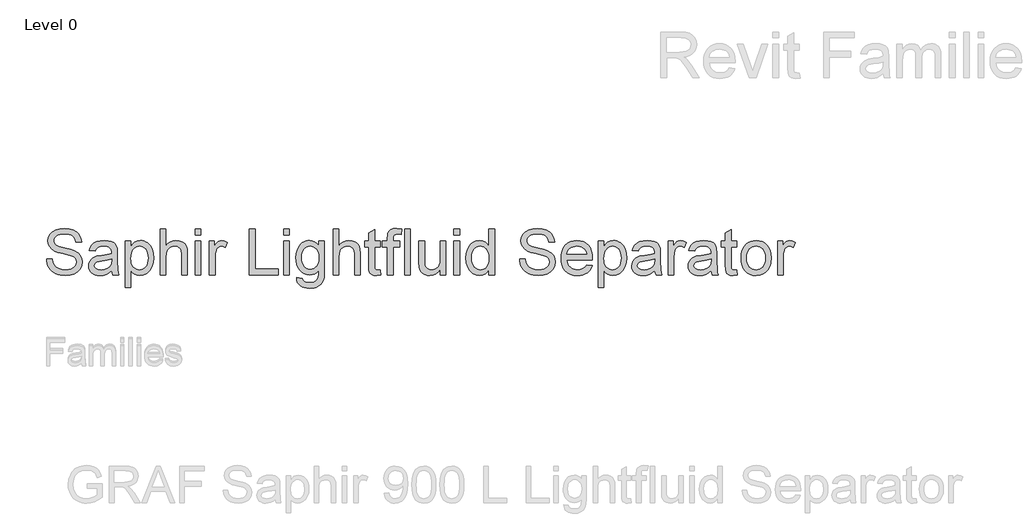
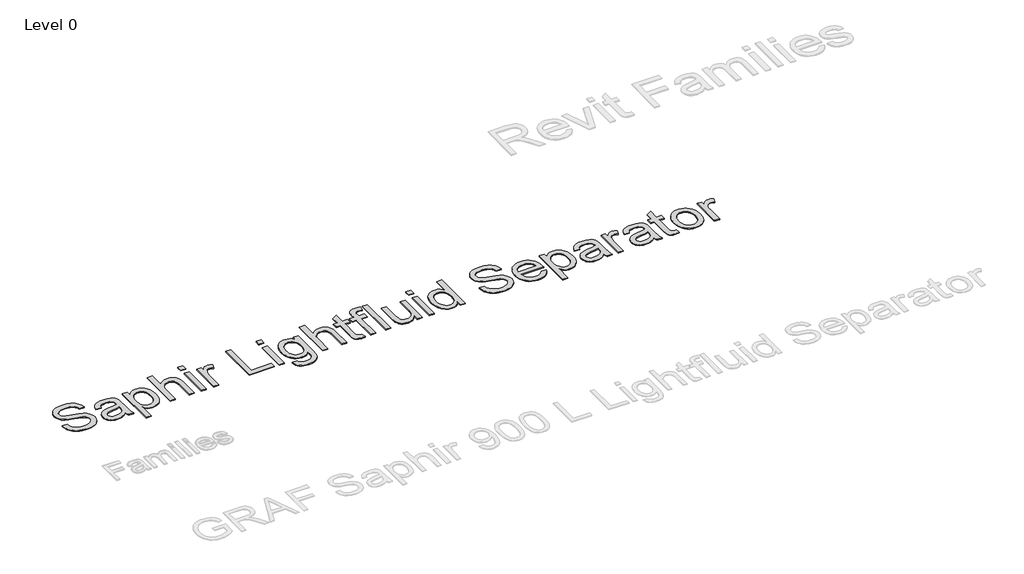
# One storey, part 7 of 9: 1 proxy.
"""IFC4 building model written with IfcOpenShell, lengths in millimetres."""

import ifcopenshell
import ifcopenshell.guid

model = None  # the IFC model being written
_history = None  # IfcOwnerHistory: only IFC2X3 demands one
_inside = {}  # id of a spatial element -> (the spatial element, [elements in it])
_under = {}  # id of a project, library or spatial element -> (it, [spatial elements below it])
_declared = {}  # id of a project -> (the project, [libraries it declares])
_typed = {}  # id of a type object -> (the type object, [elements of that type])
_made_of = {}  # id of a material, layer set ... -> (it, [elements and type objects made of it])


def new_model(schema):
    """Start an empty IFC model of exactly this schema.

    Asked for "IFC4X3", IfcOpenShell would pick the latest addendum, in which some entities
    have other attributes; the version numbers below select the first issue.
    IFC2X3 requires an IfcOwnerHistory on every rooted entity: one is made here for all.
    """
    global model, _history
    if schema == "IFC4X3":
        model = ifcopenshell.file(schema_version=(4, 3, 0, 0))
    else:
        model = ifcopenshell.file(schema=schema)
    _inside.clear()
    _under.clear()
    _declared.clear()
    _typed.clear()
    _made_of.clear()
    _history = None
    if model.schema == "IFC2X3":
        org = make("IfcOrganization", Name="unknown")
        user = make(
            "IfcPersonAndOrganization",
            ThePerson=make("IfcPerson", FamilyName="unknown"),
            TheOrganization=org,
        )
        app = make(
            "IfcApplication",
            ApplicationDeveloper=org,
            Version="unknown",
            ApplicationFullName="unknown",
            ApplicationIdentifier="unknown",
        )
        _history = make(
            "IfcOwnerHistory",
            OwningUser=user,
            OwningApplication=app,
            ChangeAction="ADDED",
            CreationDate=0,
        )
    return model


def make(cls, **values):
    """One entity of the class cls with the attributes given. An attribute that is None is left unset."""
    return model.create_entity(
        cls, **{name: value for name, value in values.items() if value is not None}
    )


def rooted(cls, **values):
    """An entity with a GlobalId (a new one), such as an element, a storey or a relation."""
    return make(cls, GlobalId=ifcopenshell.guid.new(), OwnerHistory=_history, **values)


def si_unit(unit_type, name, prefix=None):
    """IfcSIUnit, for example si_unit("LENGTHUNIT", "METRE", prefix="MILLI")."""
    return make("IfcSIUnit", UnitType=unit_type, Prefix=prefix, Name=name)


def assignment(units):
    """IfcUnitAssignment: the units of a project."""
    return None if units is None else make("IfcUnitAssignment", Units=units)


def point(xyz):
    """IfcCartesianPoint."""
    return None if xyz is None else make("IfcCartesianPoint", Coordinates=xyz)


def direction(xyz):
    """IfcDirection."""
    return None if xyz is None else make("IfcDirection", DirectionRatios=xyz)


def frame(location, z_axis=None, x_axis=None):
    """IfcAxis2Placement3D, a coordinate frame: its origin and axes. An axis left out is left unset."""
    return make(
        "IfcAxis2Placement3D",
        Location=point(location),
        Axis=direction(z_axis),
        RefDirection=direction(x_axis),
    )


def origin():
    """The frame at (0, 0, 0) with its axes left unset."""
    return frame((0.0, 0.0, 0.0))


def origin_with_axes():
    """The frame at (0, 0, 0) with the z axis (0, 0, 1) and the x axis (1, 0, 0) written out."""
    return frame((0.0, 0.0, 0.0), z_axis=(0.0, 0.0, 1.0), x_axis=(1.0, 0.0, 0.0))


def place(relative_to, where):
    """IfcLocalPlacement: puts the frame where relative to a parent placement (None: the world)."""
    return make(
        "IfcLocalPlacement", PlacementRelTo=relative_to, RelativePlacement=where
    )


def context(
    kind, dimensions, precision=None, world=None, true_north=None, identifier=None
):
    """IfcGeometricRepresentationContext, for example the 3D "Model" context."""
    return make(
        "IfcGeometricRepresentationContext",
        ContextIdentifier=identifier,
        ContextType=kind,
        CoordinateSpaceDimension=dimensions,
        Precision=precision,
        WorldCoordinateSystem=world,
        TrueNorth=true_north,
    )


def project(units=None, contexts=None):
    """IfcProject with its units and contexts."""
    return rooted(
        "IfcProject",
        Name="project",
        RepresentationContexts=contexts,
        UnitsInContext=assignment(units),
    )


def spatial(cls, under=None, at=None, **own):
    """A site, building, storey or space (cls), placed at a placement, below another one or the project."""
    s = rooted(cls, ObjectPlacement=at, **own)
    if under is not None:
        _under.setdefault(under.id(), (under, []))[1].append(s)
    return s


def polyline(points):
    """IfcPolyline through the points."""
    return make("IfcPolyline", Points=[point(p) for p in points])


def outline(outer, holes=None, kind="AREA"):
    """IfcArbitraryClosedProfileDef: a profile drawn as a closed curve; with holes, ...WithVoids."""
    if holes is None:
        return make("IfcArbitraryClosedProfileDef", ProfileType=kind, OuterCurve=outer)
    return make(
        "IfcArbitraryProfileDefWithVoids",
        ProfileType=kind,
        OuterCurve=outer,
        InnerCurves=holes,
    )


def extrude(swept, where, along, depth):
    """IfcExtrudedAreaSolid: the profile swept, set in the frame where, extruded along a direction by depth."""
    return make(
        "IfcExtrudedAreaSolid",
        SweptArea=swept,
        Position=where,
        ExtrudedDirection=direction(along),
        Depth=depth,
    )


def shape(context_of_items, identifier, shape_type, items):
    """IfcShapeRepresentation: the items that make up one representation, for example the "Body"."""
    return make(
        "IfcShapeRepresentation",
        ContextOfItems=context_of_items,
        RepresentationIdentifier=identifier,
        RepresentationType=shape_type,
        Items=items,
    )


def made_of(thing, what):
    """Note that an element or type object is made of a material, layer set ...; save() writes the relation."""
    if what is not None:
        _made_of.setdefault(what.id(), (what, []))[1].append(thing)
    return thing


def element(
    cls,
    number,
    at=None,
    inside=None,
    cuts=None,
    type_object=None,
    material=None,
    context=None,
    identifier="Body",
    shape_type=None,
    held_by="IfcProductDefinitionShape",
    body=None,
    shapes=None,
    **own,
):
    """One element of the class cls, such as IfcWall. Its Tag is "e" and its number.

    at: its placement. inside: the storey or other place that contains it. cuts: it is an
    opening in that element (IfcRelVoidsElement). A single representation is given by context,
    identifier, shape_type and body (its items); several are given by shapes. held_by: the class
    of the entity that holds the representations. save() writes the other relations.
    """
    e = rooted(cls, Tag="e%d" % number, ObjectPlacement=at, **own)
    if body is not None:
        shapes = [shape(context, identifier, shape_type, body)]
    if shapes is not None:
        e.Representation = make(held_by, Representations=shapes)
    if inside is not None:
        _inside.setdefault(inside.id(), (inside, []))[1].append(e)
    if cuts is not None:
        rooted(
            "IfcRelVoidsElement", RelatingBuildingElement=cuts, RelatedOpeningElement=e
        )
    if type_object is not None:
        _typed.setdefault(type_object.id(), (type_object, []))[1].append(e)
    return made_of(e, material)


def aggregate(whole, parts):
    """IfcRelAggregates: a whole, such as a stair, and the parts it consists of."""
    return rooted("IfcRelAggregates", RelatingObject=whole, RelatedObjects=parts)


def save(model, path):
    """Write the relations noted so far, then the file.

    IfcRelAggregates (storeys below a building ...), IfcRelContainedInSpatialStructure (elements
    in a storey), IfcRelDefinesByType, IfcRelAssociatesMaterial and IfcRelDeclares: one each for
    every whole, place, type object, material and project.
    """
    for whole, parts in _under.values():
        aggregate(whole, parts)
    for where, things in _inside.values():
        rooted(
            "IfcRelContainedInSpatialStructure",
            RelatedElements=things,
            RelatingStructure=where,
        )
    for kind, things in _typed.values():
        rooted("IfcRelDefinesByType", RelatedObjects=things, RelatingType=kind)
    for what, things in _made_of.values():
        rooted("IfcRelAssociatesMaterial", RelatedObjects=things, RelatingMaterial=what)
    for by, libraries in _declared.values():
        rooted("IfcRelDeclares", RelatingContext=by, RelatedDefinitions=libraries)
    model.write(path)


model = new_model("IFC4")

# Units and contexts
model_context = context("Model", 3, world=origin())
ifc_project = project(units=[si_unit("LENGTHUNIT", "METRE", prefix="MILLI")], contexts=[model_context])

# Site, building, storey
site = spatial("IfcSite", under=ifc_project)
building = spatial("IfcBuilding", under=site)
storey = spatial("IfcBuildingStorey", under=building, Name="Level 0", Elevation=0.0)

# Proxy
placement = place(None, origin())
element("IfcBuildingElementProxy", 1, Name="600mm Arial", ObjectType="600mm Arial", at=placement, inside=storey, context=model_context, shape_type="SweptSolid", body=[
    extrude(outline(polyline([(-15383.8303547, 12826.4867384), (-15321.0451609, 12826.4867384), (-15313.8408051, 12791.6452478), (-15300.8116512, 12763.6402309), (-15280.4861709, 12741.414027), (-15251.3928365, 12723.9089754), (-15215.8309103, 12712.5506188), (-15176.0996548, 12708.7644999), (-15141.1202084, 12711.6309138), (-15110.4940323, 12720.2301555), (-15085.6773261, 12733.8417893), (-15068.1262892, 12751.7453797), (-15057.6876376, 12772.3007862), (-15054.2080871, 12793.8678682), (-15056.8139179, 12814.8831271), (-15064.6314102, 12833.0473007), (-15080.5116497, 12848.5443297), (-15107.3057217, 12861.5581553), (-15198.7243975, 12885.5317986), (-15258.735148, 12901.3967097), (-15297.1328312, 12916.4951999), (-15328.3874724, 12937.6177578), (-15350.5370342, 12963.2162133), (-15363.7348007, 12992.7387434), (-15368.1340563, 13025.6335251), (-15362.6924684, 13062.4063962), (-15346.3677049, 13096.6960639), (-15334.2314312, 13112.2237497), (-15319.5889613, 13125.7587415), (-15282.7854334, 13146.8506425), (-15238.6089371, 13159.6805271), (-15189.7112886, 13163.9571553), (-15136.7362813, 13159.4812577), (-15090.3831499, 13146.0535649), (-15052.3073634, 13123.9499883), (-15036.9942754, 13109.7482105), (-15024.1643908, 13093.4464396), (-15006.3527708, 13056.4436422), (-14999.2710424, 13014.8423199), (-15062.0562363, 13014.8423199), (-15066.2562224, 13034.8765603), (-15073.5832055, 13052.3049698), (-15084.0371855, 13067.1275485), (-15097.6181625, 13079.3442964), (-15114.5790553, 13088.8938999), (-15135.1727828, 13095.7150452), (-15187.258742, 13101.1719615), (-15240.5709744, 13095.7763589), (-15260.9501041, 13089.0318556), (-15277.1445761, 13079.5895511), (-15289.4839514, 13068.2388587), (-15298.2977909, 13055.7691919), (-15303.5860945, 13042.1805507), (-15305.3488624, 13027.4729351), (-15300.3517987, 13003.3460076), (-15285.3606074, 12983.9402323), (-15271.5956894, 12975.3103339), (-15249.9213085, 12966.5884649), (-15182.844158, 12948.8688155), (-15113.6210293, 12932.0382142), (-15071.7437955, 12917.3535912), (-15035.951943, 12894.5755643), (-15010.9819526, 12866.4632485), (-14996.3126581, 12833.3232121), (-14991.4228932, 12795.4620235), (-14997.0484221, 12756.7577719), (-15013.9250086, 12720.3527828), (-15041.3628741, 12689.0214995), (-15078.6722397, 12665.5383655), (-15123.5385147, 12650.869071), (-15173.6471082, 12645.9793061), (-15235.1600434, 12651.2522814), (-15261.8353202, 12657.8435004), (-15285.789803, 12667.0712072), (-15307.1691119, 12678.9507299), (-15326.1188667, 12693.4973971), (-15342.6390676, 12710.7112088), (-15356.7297144, 12730.592165), (-15368.0804068, 12752.4964721), (-15376.3807443, 12775.7803367), (-15381.630727, 12800.4437588), (-15383.8303547, 12826.4867384)])), origin_with_axes(), (0.0, 0.0, 1.0), 10.0),
    extrude(outline(polyline([(-14669.6487748, 12700.9163507), (-14699.6464858, 12675.1952679), (-14730.533245, 12658.3646666), (-14763.0141595, 12649.0756462), (-14797.7943364, 12645.9793061), (-14825.7495359, 12647.8417087), (-14850.263506, 12653.4289165), (-14871.3362465, 12662.7409295), (-14888.9677576, 12675.7777477), (-14902.8897918, 12691.7116366), (-14912.834102, 12709.7148618), (-14918.8006881, 12729.7874231), (-14920.7895501, 12751.9293207), (-14917.7851805, 12777.9569719), (-14908.7720716, 12801.5933901), (-14894.8691979, 12821.8268998), (-14877.1955337, 12837.6458256), (-14856.4255294, 12849.6019904), (-14833.2336353, 12858.2472173), (-14778.9097273, 12867.6895219), (-14714.7143192, 12877.6223357), (-14670.0166568, 12889.2719322), (-14669.6487748, 12903.2514481), (-14673.9713882, 12931.2717934), (-14686.9392285, 12949.6045795), (-14700.0143678, 12957.5446992), (-14715.9405925, 12963.2162133), (-14756.3462983, 12967.7534246), (-14793.7476345, 12964.7337265), (-14819.8672561, 12955.6746324), (-14837.6788761, 12938.9206732), (-14850.1562071, 12912.8163799), (-14912.9414009, 12920.6645292), (-14902.0428968, 12955.0001821), (-14885.7794469, 12981.978195), (-14862.6335381, 13002.6102436), (-14831.087657, 13017.9080032), (-14792.5060327, 13027.3809646), (-14748.2528944, 13030.5386184), (-14705.8085092, 13027.7488466), (-14672.1626351, 13019.3795312), (-14646.7941058, 13006.7949013), (-14629.1817553, 12991.3591859), (-14617.5015019, 12972.2753074), (-14609.9292642, 12948.7461881), (-14606.8635809, 12893.8091435), (-14606.8635809, 12815.6955332), (-14603.6752703, 12706.6185216), (-14598.954118, 12679.6558371), (-14591.1672825, 12653.8274553), (-14653.9524763, 12653.8274553), (-14664.0079175, 12675.6551204), (-14669.6487748, 12700.9163507)]), holes=[polyline([(-14669.6487748, 12826.4867384), (-14711.8325769, 12816.0327584), (-14770.9389508, 12807.2342473), (-14824.9562904, 12797.0561788), (-14839.0124483, 12790.0970777), (-14849.4204431, 12780.501489), (-14855.858378, 12769.0051767), (-14858.0043563, 12756.3439047), (-14853.3291893, 12737.6738934), (-14839.3036882, 12722.3761338), (-14816.2344214, 12712.1674084), (-14784.4279573, 12708.7644999), (-14750.705441, 12712.519962), (-14720.9069994, 12723.7863481), (-14696.7494151, 12740.3870231), (-14679.9494706, 12760.1453519), (-14672.4998602, 12780.501489), (-14670.0166568, 12808.7057753), (-14669.6487748, 12826.4867384)])]), origin_with_axes(), (0.0, 0.0, 1.0), 10.0),
    extrude(outline(polyline([(-14520.5339394, 12512.5607692), (-14520.5339394, 13022.6904692), (-14457.7487455, 13022.6904692), (-14457.7487455, 12961.1315486), (-14437.2699811, 12991.4971417), (-14414.3386701, 13013.186851), (-14387.6059118, 13026.2006765), (-14355.7228055, 13030.5386184), (-14333.8261626, 13029.0211052), (-14313.2630919, 13024.4685655), (-14294.0335935, 13016.8809993), (-14276.1376673, 13006.2584067), (-14259.9661879, 12992.8766991), (-14245.91003, 12977.0117881), (-14224.1436786, 12937.8323556), (-14210.9918973, 12891.5711947), (-14206.6079702, 12841.0793909), (-14211.5590487, 12787.383948), (-14226.4122842, 12739.3600192), (-14237.4334157, 12718.0841772), (-14250.6924959, 12699.4448227), (-14266.189525, 12683.4419559), (-14283.9245028, 12670.0755768), (-14322.6287544, 12652.0033738), (-14363.3257001, 12645.9793061), (-14392.1891083, 12650.0106796), (-14417.9561764, 12662.1048002), (-14440.0137677, 12680.3609442), (-14457.7487455, 12702.878388), (-14457.7487455, 12512.5607692), (-14520.5339394, 12512.5607692)]), holes=[polyline([(-14457.7487455, 12835.3159063), (-14456.0511234, 12805.0576122), (-14450.958257, 12779.029961), (-14442.4701464, 12757.2329528), (-14430.5867916, 12739.6665875), (-14416.2815469, 12726.1469242), (-14400.5277669, 12716.4900218), (-14383.3254515, 12710.6958804), (-14364.6746008, 12708.7644999), (-14345.7555027, 12710.7648583), (-14328.2389548, 12716.7659333), (-14312.124957, 12726.7677251), (-14297.4135093, 12740.7702335), (-14285.1546082, 12758.9727281), (-14276.3982503, 12781.5744782), (-14271.1444356, 12808.5754838), (-14269.393164, 12839.9757449), (-14271.1022824, 12869.9734559), (-14276.2296378, 12895.9551218), (-14284.7752299, 12917.9207426), (-14296.739059, 12935.8703183), (-14311.0787926, 12949.8191773), (-14326.7520984, 12959.782648), (-14343.7589765, 12965.7607304), (-14362.0994268, 12967.7534246), (-14380.3823955, 12965.634271), (-14397.5847109, 12959.2768102), (-14413.7063729, 12948.6810424), (-14428.7473816, 12933.8469673), (-14441.4354783, 12914.9738546), (-14450.4984045, 12892.2609735), (-14455.9361603, 12865.708324), (-14457.7487455, 12835.3159063)])]), origin_with_axes(), (0.0, 0.0, 1.0), 10.0),
    extrude(outline(polyline([(-14135.9746271, 12653.8274553), (-14135.9746271, 13156.1090061), (-14073.1894332, 13156.1090061), (-14073.1894332, 12971.4322445), (-14050.1278307, 12997.2912831), (-14024.2304711, 13015.7620249), (-13995.4973544, 13026.84447), (-13963.9284807, 13030.5386184), (-13926.0059783, 13026.5072449), (-13893.4177649, 13014.4131243), (-13867.7579958, 12995.2066184), (-13850.6208262, 12969.8380892), (-13840.9639238, 12934.9812701), (-13837.7449563, 12887.3098949), (-13837.7449563, 12653.8274553), (-13900.5301502, 12653.8274553), (-13900.5301502, 12880.8106464), (-13905.5272139, 12920.1127062), (-13911.7735437, 12935.1192259), (-13920.5184052, 12947.0294055), (-13931.5548651, 12956.0961638), (-13944.6759896, 12962.5724198), (-13977.1722325, 12967.7534246), (-14003.7057214, 12964.2585456), (-14028.6143982, 12953.7739087), (-14049.2464467, 12937.3111895), (-14062.950051, 12915.8820632), (-14070.6295877, 12887.4018654), (-14073.1894332, 12849.7859314), (-14073.1894332, 12653.8274553), (-14135.9746271, 12653.8274553)])), origin_with_axes(), (0.0, 0.0, 1.0), 10.0),
    extrude(outline(polyline([(-13751.4153148, 12653.8274553), (-13751.4153148, 13022.6904692), (-13688.630121, 13022.6904692), (-13688.630121, 12653.8274553), (-13751.4153148, 12653.8274553)])), origin_with_axes(), (0.0, 0.0, 1.0), 10.0),
    extrude(outline(polyline([(-13751.4153148, 13093.3238122), (-13751.4153148, 13156.1090061), (-13688.630121, 13156.1090061), (-13688.630121, 13093.3238122), (-13751.4153148, 13093.3238122)])), origin_with_axes(), (0.0, 0.0, 1.0), 10.0),
    extrude(outline(polyline([(-13594.4523302, 12653.8274553), (-13594.4523302, 13022.6904692), (-13539.5152856, 13022.6904692), (-13539.5152856, 12968.1213065), (-13519.2204622, 12999.7591581), (-13500.5197941, 13018.3985126), (-13481.7578123, 13027.5035919), (-13461.2790479, 13030.5386184), (-13430.0090783, 13025.6948388), (-13398.2485994, 13011.1635), (-13419.2178732, 12954.8775547), (-13441.2907929, 12964.5344571), (-13463.3637126, 12967.7534246), (-13482.1103659, 12964.6570844), (-13498.8643251, 12955.368064), (-13512.3993168, 12940.5914706), (-13521.4890678, 12921.0324112), (-13529.1226192, 12885.9609943), (-13531.6671363, 12847.7012668), (-13531.6671363, 12653.8274553), (-13594.4523302, 12653.8274553)])), origin_with_axes(), (0.0, 0.0, 1.0), 10.0),
    extrude(outline(polyline([(-13154.9559733, 12653.8274553), (-13154.9559733, 13156.1090061), (-13092.1707794, 13156.1090061), (-13092.1707794, 12716.6126492), (-12841.0300041, 12716.6126492), (-12841.0300041, 12653.8274553), (-13154.9559733, 12653.8274553)])), origin_with_axes(), (0.0, 0.0, 1.0), 10.0),
    extrude(outline(polyline([(-12778.2448102, 12653.8274553), (-12778.2448102, 13022.6904692), (-12715.4596164, 13022.6904692), (-12715.4596164, 12653.8274553), (-12778.2448102, 12653.8274553)])), origin_with_axes(), (0.0, 0.0, 1.0), 10.0),
    extrude(outline(polyline([(-12778.2448102, 13093.3238122), (-12778.2448102, 13156.1090061), (-12715.4596164, 13156.1090061), (-12715.4596164, 13093.3238122), (-12778.2448102, 13093.3238122)])), origin_with_axes(), (0.0, 0.0, 1.0), 10.0),
    extrude(outline(polyline([(-12636.9781241, 12622.4348584), (-12574.1929302, 12614.5867092), (-12567.264486, 12594.9663361), (-12553.8367932, 12581.4773296), (-12527.44126, 12570.9926928), (-12492.8910093, 12567.4978138), (-12456.0414961, 12571.4525452), (-12428.6342875, 12583.3167396), (-12409.6270511, 12602.323976), (-12397.9774545, 12627.7078337), (-12394.5745461, 12654.7165035), (-12393.6854979, 12700.9163507), (-12414.5781296, 12680.314959), (-12437.892651, 12665.5996792), (-12463.6290623, 12656.7705113), (-12491.7873633, 12653.8274553), (-12526.2111546, 12657.2533564), (-12556.519266, 12667.5310597), (-12582.7116977, 12684.6605651), (-12604.7884495, 12708.6418726), (-12622.3049974, 12737.4133103), (-12634.8168174, 12768.9132062), (-12642.3239093, 12803.1415601), (-12644.8262733, 12840.0983722), (-12640.3350473, 12890.7894455), (-12626.8613692, 12937.40316), (-12604.88042, 12976.9044892), (-12590.8779116, 12992.8498744), (-12574.8673806, 13006.2584067), (-12557.105578, 13016.8809993), (-12537.8492548, 13024.4685655), (-12517.098411, 13029.0211052), (-12494.8530466, 13030.5386184), (-12465.4914649, 13027.1050531), (-12438.8430128, 13016.8043572), (-12414.9076905, 12999.6365308), (-12393.6854979, 12975.6015738), (-12393.6854979, 13022.6904692), (-12330.9003041, 13022.6904692), (-12330.9003041, 12704.2272887), (-12335.1922607, 12630.6968749), (-12340.5572065, 12603.3471478), (-12348.0681305, 12582.2744073), (-12370.2483492, 12550.1613748), (-12402.4533522, 12525.5592663), (-12422.138871, 12516.4388586), (-12443.9780324, 12509.9242816), (-12494.1172826, 12504.71262), (-12524.8775824, 12506.5481978), (-12552.5338778, 12512.0549314), (-12577.0861688, 12521.2328208), (-12598.5344556, 12534.0818659), (-12615.8593983, 12550.6173952), (-12628.0416573, 12570.854737), (-12635.0812325, 12594.7938914), (-12636.9781241, 12622.4348584)]), holes=[polyline([(-12582.0410795, 12844.3903288), (-12580.36645, 12813.3464534), (-12575.3425615, 12786.8014682), (-12566.969414, 12764.7553732), (-12555.2470075, 12747.2081684), (-12540.9954123, 12733.8226288), (-12525.0346986, 12724.261529), (-12507.3648665, 12718.5248691), (-12487.985916, 12716.6126492), (-12468.7985707, 12718.5133728), (-12451.2130449, 12724.2155437), (-12435.2293387, 12733.719162), (-12420.8474519, 12747.0242274), (-12408.964097, 12764.3989875), (-12400.4759864, 12786.1116894), (-12395.3831201, 12812.1623332), (-12393.6854979, 12842.5509189), (-12395.4329374, 12871.671078), (-12400.6752558, 12896.9821257), (-12409.4124532, 12918.4840619), (-12421.6445296, 12936.1768866), (-12436.3368167, 12949.991622), (-12452.4546467, 12959.8592901), (-12469.9980193, 12965.7798909), (-12488.9669347, 12967.7534246), (-12507.6177854, 12965.8105478), (-12524.8201008, 12959.9819174), (-12540.5738808, 12950.2675335), (-12554.8791255, 12936.667396), (-12566.7624804, 12919.2428185), (-12575.250591, 12898.0551149), (-12580.3434573, 12873.104285), (-12582.0410795, 12844.3903288)])]), origin_with_axes(), (0.0, 0.0, 1.0), 10.0),
    extrude(outline(polyline([(-12236.7225133, 12653.8274553), (-12236.7225133, 13156.1090061), (-12173.9373195, 13156.1090061), (-12173.9373195, 12971.4322445), (-12150.8757169, 12997.2912831), (-12124.9783573, 13015.7620249), (-12096.2452406, 13026.84447), (-12064.6763669, 13030.5386184), (-12026.7538646, 13026.5072449), (-11994.1656512, 13014.4131243), (-11968.505882, 12995.2066184), (-11951.3687124, 12969.8380892), (-11941.71181, 12934.9812701), (-11938.4928426, 12887.3098949), (-11938.4928426, 12653.8274553), (-12001.2780364, 12653.8274553), (-12001.2780364, 12880.8106464), (-12006.2751002, 12920.1127062), (-12012.5214299, 12935.1192259), (-12021.2662915, 12947.0294055), (-12032.3027513, 12956.0961638), (-12045.4238758, 12962.5724198), (-12077.9201187, 12967.7534246), (-12104.4536076, 12964.2585456), (-12129.3622844, 12953.7739087), (-12149.994333, 12937.3111895), (-12163.6979373, 12915.8820632), (-12171.3774739, 12887.4018654), (-12173.9373195, 12849.7859314), (-12173.9373195, 12653.8274553), (-12236.7225133, 12653.8274553)])), origin_with_axes(), (0.0, 0.0, 1.0), 10.0),
    extrude(outline(polyline([(-11718.7446641, 12706.189326), (-11710.8965149, 12651.9880454), (-11757.8627829, 12645.9793061), (-11787.9984497, 12648.5851369), (-11810.4699082, 12656.4026293), (-11826.3501477, 12668.4507646), (-11836.7121572, 12683.7485243), (-11842.4143282, 12710.0214301), (-11844.3150518, 12754.995004), (-11844.3150518, 12959.9052753), (-11891.4039472, 12959.9052753), (-11891.4039472, 13022.6904692), (-11844.3150518, 13022.6904692), (-11844.3150518, 13112.3310487), (-11781.529858, 13149.2418755), (-11781.529858, 13022.6904692), (-11718.7446641, 13022.6904692), (-11718.7446641, 12959.9052753), (-11781.529858, 12959.9052753), (-11781.529858, 12756.834414), (-11778.21892, 12724.4607984), (-11767.4890285, 12712.9951429), (-11746.0905591, 12708.7644999), (-11718.7446641, 12706.189326)])), origin_with_axes(), (0.0, 0.0, 1.0), 10.0),
    extrude(outline(polyline([(-11640.2631718, 12653.8274553), (-11640.2631718, 12959.9052753), (-11695.2002164, 12959.9052753), (-11695.2002164, 13022.6904692), (-11640.2631718, 13022.6904692), (-11640.2631718, 13059.8465507), (-11638.6077028, 13090.5953541), (-11633.6412959, 13112.2084213), (-11621.0106807, 13133.0857246), (-11601.512935, 13149.6097575), (-11574.2283537, 13160.3703059), (-11538.2372318, 13163.9571553), (-11480.9702679, 13157.0900247), (-11490.1673178, 13098.2289055), (-11526.3423806, 13101.1719615), (-11550.2087251, 13098.5661307), (-11565.8896951, 13090.7486383), (-11574.5809073, 13075.8187606), (-11577.477978, 13051.8757741), (-11577.477978, 13022.6904692), (-11506.8446349, 13022.6904692), (-11506.8446349, 12959.9052753), (-11577.477978, 12959.9052753), (-11577.477978, 12653.8274553), (-11640.2631718, 12653.8274553)])), origin_with_axes(), (0.0, 0.0, 1.0), 10.0),
    extrude(outline(polyline([(-11451.9075903, 12653.8274553), (-11451.9075903, 13156.1090061), (-11389.1223964, 13156.1090061), (-11389.1223964, 12653.8274553), (-11451.9075903, 12653.8274553)])), origin_with_axes(), (0.0, 0.0, 1.0), 10.0),
    extrude(outline(polyline([(-11059.5001288, 12653.8274553), (-11059.5001288, 12717.2257858), (-11082.216842, 12686.055451), (-11108.6736888, 12663.790926), (-11138.8706692, 12650.4322111), (-11172.8077833, 12645.9793061), (-11203.3879741, 12649.1063031), (-11231.8528435, 12658.4872939), (-11255.7345164, 12672.5894371), (-11272.5651176, 12689.8798909), (-11283.8928174, 12710.8798214), (-11291.2657857, 12736.1103949), (-11294.9446057, 12794.4810048), (-11294.9446057, 13022.6904692), (-11232.1594118, 13022.6904692), (-11232.1594118, 12824.0341918), (-11228.3579645, 12760.0227246), (-11219.2068999, 12738.6702405), (-11203.5259299, 12722.4374474), (-11182.3573867, 12712.1827368), (-11156.7436028, 12708.7644999), (-11129.6582909, 12712.2593789), (-11104.3204185, 12722.7440158), (-11083.4277869, 12739.2527203), (-11069.6781973, 12760.8198023), (-11062.0446459, 12790.3576608), (-11059.5001288, 12830.778695), (-11059.5001288, 13022.6904692), (-10996.7149349, 13022.6904692), (-10996.7149349, 12653.8274553), (-11059.5001288, 12653.8274553)])), origin_with_axes(), (0.0, 0.0, 1.0), 10.0),
    extrude(outline(polyline([(-10910.3852934, 12653.8274553), (-10910.3852934, 13022.6904692), (-10847.6000995, 13022.6904692), (-10847.6000995, 12653.8274553), (-10910.3852934, 12653.8274553)])), origin_with_axes(), (0.0, 0.0, 1.0), 10.0),
    extrude(outline(polyline([(-10910.3852934, 13093.3238122), (-10910.3852934, 13156.1090061), (-10847.6000995, 13156.1090061), (-10847.6000995, 13093.3238122), (-10910.3852934, 13093.3238122)])), origin_with_axes(), (0.0, 0.0, 1.0), 10.0),
    extrude(outline(polyline([(-10525.8259811, 12653.8274553), (-10525.8259811, 12713.0564566), (-10544.6109555, 12683.7102032), (-10567.3659897, 12662.7485937), (-10594.0910838, 12650.171628), (-10624.7862378, 12645.9793061), (-10665.3758846, 12652.049359), (-10702.5319661, 12670.2595178), (-10733.9858767, 12699.3375238), (-10757.4690107, 12738.0111186), (-10772.09232, 12784.7168035), (-10776.9667565, 12837.8910803), (-10772.4755304, 12890.4062351), (-10759.0018524, 12937.8323556), (-10748.9004259, 12958.9625777), (-10736.5610507, 12977.4716406), (-10721.9837266, 12993.3595443), (-10705.1684537, 13006.6262887), (-10667.1999662, 13024.560536), (-10625.0314925, 13030.5386184), (-10594.3133459, 13026.2619902), (-10567.1513919, 13013.4321056), (-10544.1281103, 12993.7657473), (-10525.8259811, 12968.9796979), (-10525.8259811, 13156.1090061), (-10463.0407872, 13156.1090061), (-10463.0407872, 12653.8274553), (-10525.8259811, 12653.8274553)]), holes=[polyline([(-10714.1815626, 12838.1363349), (-10712.4111305, 12807.6902677), (-10707.0998342, 12781.3445519), (-10698.2476737, 12759.0991875), (-10685.854649, 12740.9541745), (-10671.0550629, 12726.8711919), (-10654.9832182, 12716.8119186), (-10637.639115, 12710.7763546), (-10619.0227532, 12708.7644999), (-10600.318253, 12710.6843841), (-10583.0776166, 12716.4440366), (-10567.3008439, 12726.0434574), (-10552.9879351, 12739.4826465), (-10541.1045802, 12756.8689029), (-10532.6164696, 12778.3095255), (-10527.5236032, 12803.8045141), (-10525.8259811, 12833.353869), (-10527.55426, 12865.7504772), (-10532.7390969, 12893.533232), (-10541.3804917, 12916.7021335), (-10553.4784444, 12935.2571816), (-10568.1055858, 12949.4742879), (-10584.3345467, 12959.6293638), (-10602.1653272, 12965.7224094), (-10621.5979272, 12967.7534246), (-10640.582171, 12965.8028836), (-10657.9262742, 12959.9512606), (-10673.6302369, 12950.1985556), (-10687.694059, 12936.5447686), (-10699.2823418, 12918.6909955), (-10707.5596867, 12896.3383322), (-10712.5260936, 12869.4867787), (-10714.1815626, 12838.1363349)])]), origin_with_axes(), (0.0, 0.0, 1.0), 10.0),
    extrude(outline(polyline([(-10188.3555642, 12826.4867384), (-10125.5703703, 12826.4867384), (-10118.3660146, 12791.6452478), (-10105.3368606, 12763.6402309), (-10085.0113804, 12741.414027), (-10055.9180459, 12723.9089754), (-10020.3561197, 12712.5506188), (-9980.6248642, 12708.7644999), (-9945.6454179, 12711.6309138), (-9915.0192418, 12720.2301555), (-9890.2025355, 12733.8417893), (-9872.6514987, 12751.7453797), (-9862.212847, 12772.3007862), (-9858.7332965, 12793.8678682), (-9861.3391273, 12814.8831271), (-9869.1566197, 12833.0473007), (-9885.0368592, 12848.5443297), (-9911.8309311, 12861.5581553), (-10003.2496069, 12885.5317986), (-10063.2603574, 12901.3967097), (-10101.6580406, 12916.4951999), (-10132.9126818, 12937.6177578), (-10155.0622436, 12963.2162133), (-10168.2600102, 12992.7387434), (-10172.6592657, 13025.6335251), (-10167.2176779, 13062.4063962), (-10150.8929143, 13096.6960639), (-10138.7566406, 13112.2237497), (-10124.1141708, 13125.7587415), (-10087.3106428, 13146.8506425), (-10043.1341466, 13159.6805271), (-9994.2364981, 13163.9571553), (-9941.2614908, 13159.4812577), (-9894.9083594, 13146.0535649), (-9856.8325729, 13123.9499883), (-9841.5194848, 13109.7482105), (-9828.6896002, 13093.4464396), (-9810.8779803, 13056.4436422), (-9803.7962519, 13014.8423199), (-9866.5814457, 13014.8423199), (-9870.7814318, 13034.8765603), (-9878.1084149, 13052.3049698), (-9888.5623949, 13067.1275485), (-9902.1433719, 13079.3442964), (-9919.1042648, 13088.8938999), (-9939.6979923, 13095.7150452), (-9991.7839514, 13101.1719615), (-10045.0961839, 13095.7763589), (-10065.4753136, 13089.0318556), (-10081.6697856, 13079.5895511), (-10094.0091608, 13068.2388587), (-10102.8230003, 13055.7691919), (-10108.111304, 13042.1805507), (-10109.8740719, 13027.4729351), (-10104.8770081, 13003.3460076), (-10089.8858168, 12983.9402323), (-10076.1208988, 12975.3103339), (-10054.4465179, 12966.5884649), (-9987.3693675, 12948.8688155), (-9918.1462387, 12932.0382142), (-9876.2690049, 12917.3535912), (-9840.4771525, 12894.5755643), (-9815.5071621, 12866.4632485), (-9800.8378675, 12833.3232121), (-9795.9481027, 12795.4620235), (-9801.5736315, 12756.7577719), (-9818.450218, 12720.3527828), (-9845.8880835, 12689.0214995), (-9883.1974492, 12665.5383655), (-9928.0637242, 12650.869071), (-9978.1723176, 12645.9793061), (-10039.6852529, 12651.2522814), (-10066.3605296, 12657.8435004), (-10090.3150125, 12667.0712072), (-10111.6943213, 12678.9507299), (-10130.6440762, 12693.4973971), (-10147.164277, 12710.7112088), (-10161.2549239, 12730.592165), (-10172.6056163, 12752.4964721), (-10180.9059538, 12775.7803367), (-10186.1559364, 12800.4437588), (-10188.3555642, 12826.4867384)])), origin_with_axes(), (0.0, 0.0, 1.0), 10.0),
    extrude(outline(polyline([(-9451.3653005, 12763.7015446), (-9389.80638, 12755.8533953), (-9399.2448524, 12731.1976374), (-9411.9865986, 12709.4696071), (-9428.0316185, 12690.6693043), (-9447.3799122, 12674.7967291), (-9469.8322102, 12662.1891065), (-9495.1892432, 12653.1836618), (-9523.451011, 12647.780395), (-9554.6175138, 12645.9793061), (-9593.5746843, 12649.0871425), (-9628.2858834, 12658.4106519), (-9658.7511111, 12673.9498341), (-9684.9703674, 12695.7046891), (-9706.0546043, 12723.0697446), (-9721.1147735, 12755.4395281), (-9730.150875, 12792.8140395), (-9733.1629088, 12835.193279), (-9730.1202181, 12879.0095574), (-9720.9921461, 12917.6295027), (-9705.7786928, 12951.0531148), (-9684.4798581, 12979.2803937), (-9658.3295796, 13001.705867), (-9628.5617949, 13017.7240622), (-9595.1765038, 13027.3349794), (-9558.1737064, 13030.5386184), (-9522.3626935, 13027.3426436), (-9489.9775816, 13017.7547191), (-9461.0183708, 13001.7748449), (-9435.4850611, 12979.4030211), (-9414.6422468, 12951.2370558), (-9399.7545223, 12917.8747574), (-9390.8218876, 12879.3161258), (-9387.8443427, 12835.561161), (-9388.2122247, 12818.6385892), (-9670.377715, 12818.6385892), (-9666.7410482, 12793.5842925), (-9659.5098677, 12771.6416643), (-9648.6841736, 12752.8107047), (-9634.2639658, 12737.0914136), (-9617.046322, 12724.6983889), (-9597.8283198, 12715.8462284), (-9576.6099593, 12710.534932), (-9553.3912405, 12708.7644999), (-9519.9752926, 12712.0447811), (-9491.83232, 12721.8856244), (-9468.9623226, 12738.9001667), (-9451.3653005, 12763.7015446)]), holes=[polyline([(-9670.377715, 12881.423783), (-9450.6295365, 12881.423783), (-9459.1214792, 12914.5944762), (-9475.7681395, 12938.3228649), (-9492.8899807, 12951.1987348), (-9512.372398, 12960.3957846), (-9534.2153915, 12965.9140146), (-9558.4189611, 12967.7534246), (-9600.740719, 12961.882641), (-9619.1539792, 12954.5441617), (-9635.7354938, 12944.2702905), (-9649.6498638, 12931.5362085), (-9660.0616907, 12916.8170966), (-9666.9709744, 12900.1129548), (-9670.377715, 12881.423783)])]), origin_with_axes(), (0.0, 0.0, 1.0), 10.0),
    extrude(outline(polyline([(-9325.0591488, 12512.5607692), (-9325.0591488, 13022.6904692), (-9262.273955, 13022.6904692), (-9262.273955, 12961.1315486), (-9241.7951906, 12991.4971417), (-9218.8638796, 13013.186851), (-9192.1311212, 13026.2006765), (-9160.248015, 13030.5386184), (-9138.3513721, 13029.0211052), (-9117.7883014, 13024.4685655), (-9098.5588029, 13016.8809993), (-9080.6628767, 13006.2584067), (-9064.4913973, 12992.8766991), (-9050.4352394, 12977.0117881), (-9028.6688881, 12937.8323556), (-9015.5171067, 12891.5711947), (-9011.1331796, 12841.0793909), (-9016.0842581, 12787.383948), (-9030.9374937, 12739.3600192), (-9041.9586251, 12718.0841772), (-9055.2177054, 12699.4448227), (-9070.7147344, 12683.4419559), (-9088.4497123, 12670.0755768), (-9127.1539638, 12652.0033738), (-9167.8509096, 12645.9793061), (-9196.7143178, 12650.0106796), (-9222.4813858, 12662.1048002), (-9244.5389771, 12680.3609442), (-9262.273955, 12702.878388), (-9262.273955, 12512.5607692), (-9325.0591488, 12512.5607692)]), holes=[polyline([(-9262.273955, 12835.3159063), (-9260.5763329, 12805.0576122), (-9255.4834665, 12779.029961), (-9246.9953559, 12757.2329528), (-9235.112001, 12739.6665875), (-9220.8067563, 12726.1469242), (-9205.0529763, 12716.4900218), (-9187.8506609, 12710.6958804), (-9169.1998102, 12708.7644999), (-9150.2807122, 12710.7648583), (-9132.7641643, 12716.7659333), (-9116.6501665, 12726.7677251), (-9101.9387188, 12740.7702335), (-9089.6798177, 12758.9727281), (-9080.9234598, 12781.5744782), (-9075.669645, 12808.5754838), (-9073.9183735, 12839.9757449), (-9075.6274919, 12869.9734559), (-9080.7548472, 12895.9551218), (-9089.3004394, 12917.9207426), (-9101.2642684, 12935.8703183), (-9115.604002, 12949.8191773), (-9131.2773079, 12959.782648), (-9148.2841859, 12965.7607304), (-9166.6246362, 12967.7534246), (-9184.907605, 12965.634271), (-9202.1099204, 12959.2768102), (-9218.2315824, 12948.6810424), (-9233.272591, 12933.8469673), (-9245.9606878, 12914.9738546), (-9255.023614, 12892.2609735), (-9260.4613697, 12865.708324), (-9262.273955, 12835.3159063)])]), origin_with_axes(), (0.0, 0.0, 1.0), 10.0),
    extrude(outline(polyline([(-8705.0553596, 12700.9163507), (-8735.0530707, 12675.1952679), (-8765.9398298, 12658.3646666), (-8798.4207443, 12649.0756462), (-8833.2009213, 12645.9793061), (-8861.1561208, 12647.8417087), (-8885.6700908, 12653.4289165), (-8906.7428314, 12662.7409295), (-8924.3743424, 12675.7777477), (-8938.2963767, 12691.7116366), (-8948.2406869, 12709.7148618), (-8954.207273, 12729.7874231), (-8956.196135, 12751.9293207), (-8953.1917654, 12777.9569719), (-8944.1786565, 12801.5933901), (-8930.2757828, 12821.8268998), (-8912.6021186, 12837.6458256), (-8891.8321143, 12849.6019904), (-8868.6402201, 12858.2472173), (-8814.3163122, 12867.6895219), (-8750.120904, 12877.6223357), (-8705.4232416, 12889.2719322), (-8705.0553596, 12903.2514481), (-8709.3779731, 12931.2717934), (-8722.3458134, 12949.6045795), (-8735.4209526, 12957.5446992), (-8751.3471774, 12963.2162133), (-8791.7528832, 12967.7534246), (-8829.1542193, 12964.7337265), (-8855.273841, 12955.6746324), (-8873.0854609, 12938.9206732), (-8885.5627919, 12912.8163799), (-8948.3479858, 12920.6645292), (-8937.4494817, 12955.0001821), (-8921.1860318, 12981.978195), (-8898.0401229, 13002.6102436), (-8866.4942418, 13017.9080032), (-8827.9126176, 13027.3809646), (-8783.6594793, 13030.5386184), (-8741.2150941, 13027.7488466), (-8707.5692199, 13019.3795312), (-8682.2006907, 13006.7949013), (-8664.5883402, 12991.3591859), (-8652.9080868, 12972.2753074), (-8645.3358491, 12948.7461881), (-8642.2701658, 12893.8091435), (-8642.2701658, 12815.6955332), (-8639.0818552, 12706.6185216), (-8634.3607029, 12679.6558371), (-8626.5738673, 12653.8274553), (-8689.3590612, 12653.8274553), (-8699.4145024, 12675.6551204), (-8705.0553596, 12700.9163507)]), holes=[polyline([(-8705.0553596, 12826.4867384), (-8747.2391617, 12816.0327584), (-8806.3455356, 12807.2342473), (-8860.3628753, 12797.0561788), (-8874.4190332, 12790.0970777), (-8884.8270279, 12780.501489), (-8891.2649629, 12769.0051767), (-8893.4109412, 12756.3439047), (-8888.7357741, 12737.6738934), (-8874.7102731, 12722.3761338), (-8851.6410063, 12712.1674084), (-8819.8345421, 12708.7644999), (-8786.1120259, 12712.519962), (-8756.3135843, 12723.7863481), (-8732.1559999, 12740.3870231), (-8715.3560555, 12760.1453519), (-8707.9064451, 12780.501489), (-8705.4232416, 12808.7057753), (-8705.0553596, 12826.4867384)])]), origin_with_axes(), (0.0, 0.0, 1.0), 10.0),
    extrude(outline(polyline([(-8555.9405242, 12653.8274553), (-8555.9405242, 13022.6904692), (-8501.0034796, 13022.6904692), (-8501.0034796, 12968.1213065), (-8480.7086562, 12999.7591581), (-8462.0079881, 13018.3985126), (-8443.2460064, 13027.5035919), (-8422.767242, 13030.5386184), (-8391.4972724, 13025.6948388), (-8359.7367935, 13011.1635), (-8380.7060672, 12954.8775547), (-8402.7789869, 12964.5344571), (-8424.8519066, 12967.7534246), (-8443.59856, 12964.6570844), (-8460.3525192, 12955.368064), (-8473.8875109, 12940.5914706), (-8482.9772619, 12921.0324112), (-8490.6108133, 12885.9609943), (-8493.1553304, 12847.7012668), (-8493.1553304, 12653.8274553), (-8555.9405242, 12653.8274553)])), origin_with_axes(), (0.0, 0.0, 1.0), 10.0),
    extrude(outline(polyline([(-8085.0515704, 12700.9163507), (-8115.0492814, 12675.1952679), (-8145.9360406, 12658.3646666), (-8178.4169551, 12649.0756462), (-8213.1971321, 12645.9793061), (-8241.1523316, 12647.8417087), (-8265.6663016, 12653.4289165), (-8286.7390422, 12662.7409295), (-8304.3705532, 12675.7777477), (-8318.2925875, 12691.7116366), (-8328.2368977, 12709.7148618), (-8334.2034838, 12729.7874231), (-8336.1923458, 12751.9293207), (-8333.1879762, 12777.9569719), (-8324.1748673, 12801.5933901), (-8310.2719936, 12821.8268998), (-8292.5983294, 12837.6458256), (-8271.8283251, 12849.6019904), (-8248.6364309, 12858.2472173), (-8194.312523, 12867.6895219), (-8130.1171148, 12877.6223357), (-8085.4194524, 12889.2719322), (-8085.0515704, 12903.2514481), (-8089.3741839, 12931.2717934), (-8102.3420242, 12949.6045795), (-8115.4171634, 12957.5446992), (-8131.3433881, 12963.2162133), (-8171.749094, 12967.7534246), (-8209.1504301, 12964.7337265), (-8235.2700518, 12955.6746324), (-8253.0816717, 12938.9206732), (-8265.5590027, 12912.8163799), (-8328.3441966, 12920.6645292), (-8317.4456925, 12955.0001821), (-8301.1822426, 12981.978195), (-8278.0363337, 13002.6102436), (-8246.4904526, 13017.9080032), (-8207.9088284, 13027.3809646), (-8163.6556901, 13030.5386184), (-8121.2113049, 13027.7488466), (-8087.5654307, 13019.3795312), (-8062.1969015, 13006.7949013), (-8044.584551, 12991.3591859), (-8032.9042976, 12972.2753074), (-8025.3320599, 12948.7461881), (-8022.2663766, 12893.8091435), (-8022.2663766, 12815.6955332), (-8019.078066, 12706.6185216), (-8014.3569137, 12679.6558371), (-8006.5700781, 12653.8274553), (-8069.355272, 12653.8274553), (-8079.4107132, 12675.6551204), (-8085.0515704, 12700.9163507)]), holes=[polyline([(-8085.0515704, 12826.4867384), (-8127.2353725, 12816.0327584), (-8186.3417464, 12807.2342473), (-8240.3590861, 12797.0561788), (-8254.415244, 12790.0970777), (-8264.8232387, 12780.501489), (-8271.2611736, 12769.0051767), (-8273.407152, 12756.3439047), (-8268.7319849, 12737.6738934), (-8254.7064839, 12722.3761338), (-8231.6372171, 12712.1674084), (-8199.8307529, 12708.7644999), (-8166.1082367, 12712.519962), (-8136.3097951, 12723.7863481), (-8112.1522107, 12740.3870231), (-8095.3522663, 12760.1453519), (-8087.9026559, 12780.501489), (-8085.4194524, 12808.7057753), (-8085.0515704, 12826.4867384)])]), origin_with_axes(), (0.0, 0.0, 1.0), 10.0),
    extrude(outline(polyline([(-7802.5181981, 12706.189326), (-7794.6700489, 12651.9880454), (-7841.6363169, 12645.9793061), (-7871.7719837, 12648.5851369), (-7894.2434423, 12656.4026293), (-7910.1236817, 12668.4507646), (-7920.4856912, 12683.7485243), (-7926.1878622, 12710.0214301), (-7928.0885858, 12754.995004), (-7928.0885858, 12959.9052753), (-7975.1774812, 12959.9052753), (-7975.1774812, 13022.6904692), (-7928.0885858, 13022.6904692), (-7928.0885858, 13112.3310487), (-7865.303392, 13149.2418755), (-7865.303392, 13022.6904692), (-7802.5181981, 13022.6904692), (-7802.5181981, 12959.9052753), (-7865.303392, 12959.9052753), (-7865.303392, 12756.834414), (-7861.992454, 12724.4607984), (-7851.2625625, 12712.9951429), (-7829.8640931, 12708.7644999), (-7802.5181981, 12706.189326)])), origin_with_axes(), (0.0, 0.0, 1.0), 10.0),
    extrude(outline(polyline([(-7755.4293027, 12838.2589623), (-7752.0340585, 12886.0299722), (-7741.8483258, 12927.1944346), (-7724.8721045, 12961.7523495), (-7701.1053948, 12989.7037169), (-7677.1777367, 13007.5689863), (-7650.7668751, 13020.329893), (-7621.8728101, 13027.9864371), (-7590.4955416, 13030.5386184), (-7555.8571525, 13027.430782), (-7524.5373655, 13018.1072726), (-7496.5361807, 13002.5680905), (-7471.8535981, 12980.8132354), (-7451.7082268, 12953.5784714), (-7437.3186758, 12921.5995626), (-7428.6849453, 12884.8765088), (-7425.8070351, 12843.4093102), (-7430.8960693, 12779.9803228), (-7437.2573622, 12753.9450075), (-7446.1631721, 12731.695811), (-7457.5023682, 12712.4778088), (-7471.1638194, 12695.5360765), (-7487.1475257, 12680.8706141), (-7505.453487, 12668.4814215), (-7546.1810896, 12651.6048349), (-7590.4955416, 12645.9793061), (-7625.6397684, 12649.0756462), (-7657.2507953, 12658.3646666), (-7685.3286221, 12673.8463672), (-7709.873249, 12695.5207481), (-7729.8040225, 12723.0199273), (-7744.0402893, 12755.9760227), (-7752.5820494, 12794.3890343), (-7755.4293027, 12838.2589623)]), holes=[polyline([(-7692.6441089, 12838.3815896), (-7690.8276915, 12807.9278582), (-7685.3784395, 12781.5591497), (-7676.2963527, 12759.2754643), (-7663.5814313, 12741.0768019), (-7648.1150591, 12726.9401698), (-7630.77862, 12716.8425754), (-7611.5721142, 12710.7840188), (-7590.4955416, 12708.7644999), (-7569.5262678, 12710.7955151), (-7550.3964041, 12716.8885607), (-7533.1059503, 12727.0436366), (-7517.6549065, 12741.2607429), (-7504.9399851, 12759.6395142), (-7495.8578983, 12782.2795853), (-7490.4086463, 12809.1809562), (-7488.5922289, 12840.3436269), (-7490.4201426, 12869.8316681), (-7495.9038836, 12895.5105977), (-7505.0434519, 12917.3804159), (-7517.8388475, 12935.4411226), (-7533.3473729, 12949.5777547), (-7550.6263303, 12959.6753491), (-7569.6757199, 12965.7339057), (-7590.4955416, 12967.7534246), (-7611.5721142, 12965.7415699), (-7630.77862, 12959.7060059), (-7648.1150591, 12949.6467326), (-7663.5814313, 12935.56375), (-7676.2963527, 12917.418737), (-7685.3784395, 12895.1733726), (-7690.8276915, 12868.8276568), (-7692.6441089, 12838.3815896)])]), origin_with_axes(), (0.0, 0.0, 1.0), 10.0),
    extrude(outline(polyline([(-7355.173692, 12653.8274553), (-7355.173692, 13022.6904692), (-7300.2366474, 13022.6904692), (-7300.2366474, 12968.1213065), (-7279.941824, 12999.7591581), (-7261.2411559, 13018.3985126), (-7242.4791741, 13027.5035919), (-7222.0004097, 13030.5386184), (-7190.7304401, 13025.6948388), (-7158.9699612, 13011.1635), (-7179.939235, 12954.8775547), (-7202.0121547, 12964.5344571), (-7224.0850744, 12967.7534246), (-7242.8317277, 12964.6570844), (-7259.5856869, 12955.368064), (-7273.1206787, 12940.5914706), (-7282.2104296, 12921.0324112), (-7289.843981, 12885.9609943), (-7292.3884981, 12847.7012668), (-7292.3884981, 12653.8274553), (-7355.173692, 12653.8274553)])), origin_with_axes(), (0.0, 0.0, 1.0), 10.0),
])

save(model, "model.ifc")
